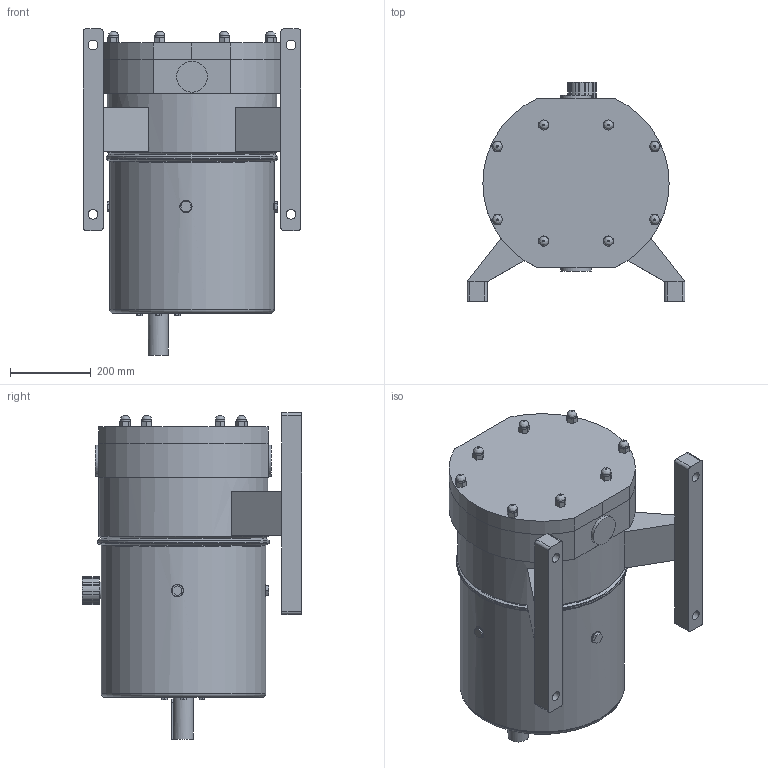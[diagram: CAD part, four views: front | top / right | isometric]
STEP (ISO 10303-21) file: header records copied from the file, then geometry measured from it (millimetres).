
FILE_DESCRIPTION((''),'2;1');
FILE_NAME('T:\_Engineering\Read Only\Studenci\Maciej\DW pumps\STEP\DW6_198_30_shaft_left.stp','2013-06-10T12:16:21',('pszymczyk'),(''),'Autodesk Inventor 2012','Autodesk Inventor 2012','');
FILE_SCHEMA(('CONFIG_CONTROL_DESIGN'));
Length unit declared in the file: millimetre
Products named in the file (1): DW_iparts
Bounding box: 540.6 x 543.3 x 809 mm (x, y, z)
Volume: 48605600.2 mm3; surface area: 2398603.1 mm2
Topology: 1 solids, 3 shells, 318 faces, 754 edges, 467 vertices
Faces by surface type: plane 244, cylinder 51, bspline 12, cone 7, torus 4
Full cylindrical faces by diameter (mm): 24 x12, 30 x4, 42 x1, 50 x1, 76.7 x2, 90 x1, 110 x1, 405.6 x2, 408.6 x2, 420 x2, 426 x1
Entity records: 9388 total; most frequent: CARTESIAN_POINT 2088, DIRECTION 1473, ORIENTED_EDGE 1408, EDGE_CURVE 704, VECTOR 531, LINE 531, AXIS2_PLACEMENT_3D 471, VERTEX_POINT 460
